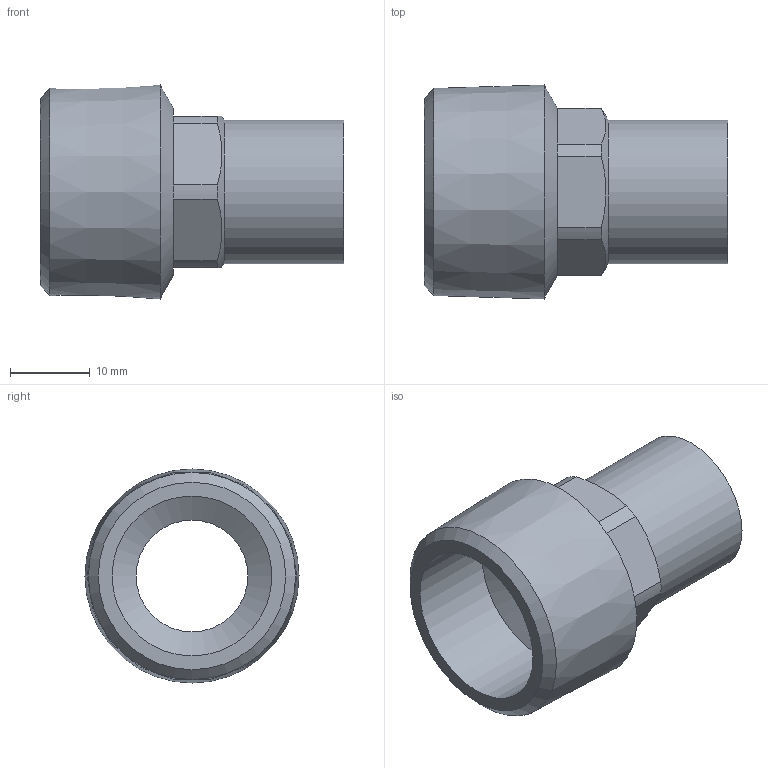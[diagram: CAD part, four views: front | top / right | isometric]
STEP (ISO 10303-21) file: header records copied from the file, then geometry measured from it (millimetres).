
FILE_DESCRIPTION((''),'2;1');
FILE_NAME('G:\Engineering\Public\Pajchrowski\projekty\8000 models\pressfitting\14280_18-34(1).stp','2008-11-04T11:39:54',('pajchrowski'),(''),'Autodesk Inventor 2009','Autodesk Inventor 2009','');
FILE_SCHEMA(('AUTOMOTIVE_DESIGN { 1 0 10303 214 1 1 1 1 }'));
Length unit declared in the file: millimetre
Products named in the file (1): 14280_18-34(1)
Bounding box: 38 x 26.79 x 26.79 mm (x, y, z)
Volume: 6879.5 mm3; surface area: 5053.7 mm2
Topology: 1 solids, 1 shells, 28 faces, 61 edges, 35 vertices
Faces by surface type: plane 14, cylinder 9, cone 5
Full cylindrical faces by diameter (mm): 14 x1, 18 x1, 20 x1
Entity records: 722 total; most frequent: DIRECTION 130, CARTESIAN_POINT 125, ORIENTED_EDGE 102, AXIS2_PLACEMENT_3D 56, EDGE_CURVE 51, EDGE_LOOP 38, VERTEX_POINT 33, FACE_OUTER_BOUND 28
